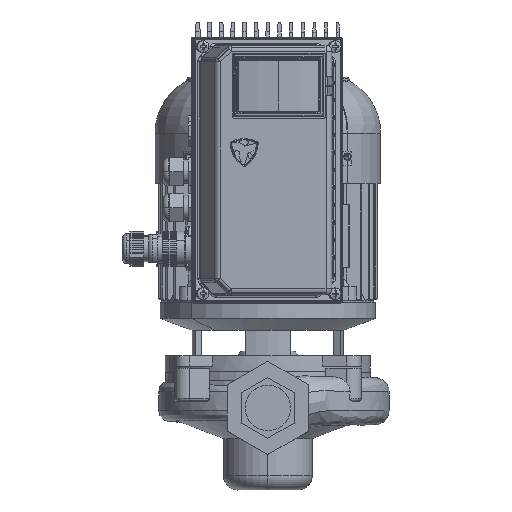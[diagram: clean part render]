
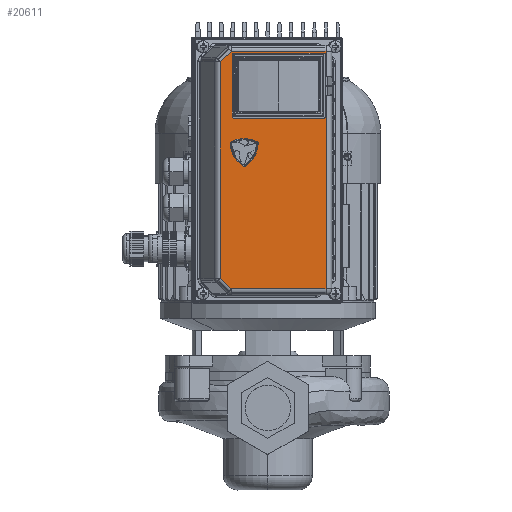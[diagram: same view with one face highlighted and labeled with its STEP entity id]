
A CAD part, top view. The second image highlights one B-rep face of the part: STEP entity #20611.
In plain terms, the highlighted planar face has unit normal (0, 0, 1) as drawn and (0, 0.276, -0.961) by its records, which use the part's own axes.
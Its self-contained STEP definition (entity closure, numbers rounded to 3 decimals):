
#20611=ADVANCED_FACE('',(#40497,#40498),#40499,.F.);
#40497=FACE_BOUND('',#69932,.T.);
#40498=FACE_OUTER_BOUND('',#69933,.T.);
#40499=PLANE('',#69934);
#69932=EDGE_LOOP('',(#107025,#107026,#107027,#107028));
#69933=EDGE_LOOP('',(#107029,#107030,#107031,#107032,#107033,#107034));
#69934=AXIS2_PLACEMENT_3D('',#107035,#107036,#107037);
#107025=ORIENTED_EDGE('',*,*,#116514,.T.);
#107026=ORIENTED_EDGE('',*,*,#116517,.T.);
#107027=ORIENTED_EDGE('',*,*,#116507,.T.);
#107028=ORIENTED_EDGE('',*,*,#116511,.T.);
#107029=ORIENTED_EDGE('',*,*,#115603,.F.);
#107030=ORIENTED_EDGE('',*,*,#117355,.F.);
#107031=ORIENTED_EDGE('',*,*,#117361,.F.);
#107032=ORIENTED_EDGE('',*,*,#116080,.T.);
#107033=ORIENTED_EDGE('',*,*,#116893,.T.);
#107034=ORIENTED_EDGE('',*,*,#117359,.T.);
#107035=CARTESIAN_POINT('',(0.,13.785,32.694));
#107036=DIRECTION('',(0.0,-0.276,0.961));
#107037=DIRECTION('',(-0.0,0.961,0.276));
#115603=EDGE_CURVE('',#127233,#127235,#127236,.T.);
#116080=EDGE_CURVE('',#128050,#128048,#128051,.T.);
#116507=EDGE_CURVE('',#128771,#128772,#128773,.T.);
#116511=EDGE_CURVE('',#128772,#128777,#128778,.T.);
#116514=EDGE_CURVE('',#128777,#128781,#128782,.T.);
#116517=EDGE_CURVE('',#128781,#128771,#128785,.T.);
#116893=EDGE_CURVE('',#128048,#129214,#129216,.T.);
#117355=EDGE_CURVE('',#129736,#127233,#129738,.T.);
#117359=EDGE_CURVE('',#129214,#127235,#129742,.T.);
#117361=EDGE_CURVE('',#128050,#129736,#129744,.T.);
#127233=VERTEX_POINT('',#151028);
#127235=VERTEX_POINT('',#151030);
#127236=LINE('',#151031,#151032);
#128048=VERTEX_POINT('',#151971);
#128050=VERTEX_POINT('',#151973);
#128051=LINE('',#151974,#151975);
#128771=VERTEX_POINT('',#152834);
#128772=VERTEX_POINT('',#152835);
#128773=LINE('',#152836,#152837);
#128777=VERTEX_POINT('',#152843);
#128778=LINE('',#152844,#152845);
#128781=VERTEX_POINT('',#152849);
#128782=LINE('',#152850,#152851);
#128785=LINE('',#152855,#152856);
#129214=VERTEX_POINT('',#153336);
#129216=LINE('',#153338,#153339);
#129736=VERTEX_POINT('',#153957);
#129738=LINE('',#153959,#153960);
#129742=LINE('',#153964,#153965);
#129744=LINE('',#153967,#153968);
#151028=CARTESIAN_POINT('',(-102.0,48.307,42.593));
#151030=CARTESIAN_POINT('',(-102.0,-29.808,20.194));
#151031=CARTESIAN_POINT('',(-102.0,-21.808,22.488));
#151032=VECTOR('',#161830,1.);
#151971=CARTESIAN_POINT('',(102.0,48.307,42.593));
#151973=CARTESIAN_POINT('',(92.929,57.378,45.194));
#151974=CARTESIAN_POINT('',(81.022,69.285,48.608));
#151975=VECTOR('',#162720,1.);
#152834=CARTESIAN_POINT('',(-50.,42.286,40.866));
#152835=CARTESIAN_POINT('',(-95.,42.286,40.866));
#152836=CARTESIAN_POINT('',(-36.25,42.286,40.866));
#152837=VECTOR('',#163508,1.);
#152843=CARTESIAN_POINT('',(-95.,-24.041,21.847));
#152844=CARTESIAN_POINT('',(-95.,11.454,32.025));
#152845=VECTOR('',#163511,1.);
#152849=CARTESIAN_POINT('',(-50.,-24.041,21.847));
#152850=CARTESIAN_POINT('',(-36.25,-24.041,21.847));
#152851=VECTOR('',#163513,1.);
#152855=CARTESIAN_POINT('',(-50.,11.454,32.025));
#152856=VECTOR('',#163515,1.);
#153336=CARTESIAN_POINT('',(102.0,-29.808,20.194));
#153338=CARTESIAN_POINT('',(102.0,-21.808,22.488));
#153339=VECTOR('',#164101,1.0);
#153957=CARTESIAN_POINT('',(-92.929,57.378,45.194));
#153959=CARTESIAN_POINT('',(-81.022,69.285,48.608));
#153960=VECTOR('',#164776,1.);
#153964=CARTESIAN_POINT('',(0.,-29.808,20.194));
#153965=VECTOR('',#164780,1.0);
#153967=CARTESIAN_POINT('',(0.,57.378,45.194));
#153968=VECTOR('',#164781,1.0);
#161830=DIRECTION('',(0.,-0.961,-0.276));
#162720=DIRECTION('',(0.693,-0.693,-0.199));
#163508=DIRECTION('',(-1.0,0.,0.));
#163511=DIRECTION('',(-0.0,-0.961,-0.276));
#163513=DIRECTION('',(1.0,0.,0.));
#163515=DIRECTION('',(-0.0,0.961,0.276));
#164101=DIRECTION('',(0.,-0.961,-0.276));
#164776=DIRECTION('',(-0.693,-0.693,-0.199));
#164780=DIRECTION('',(-1.0,0.0,0.0));
#164781=DIRECTION('',(-1.0,0.0,0.0));
